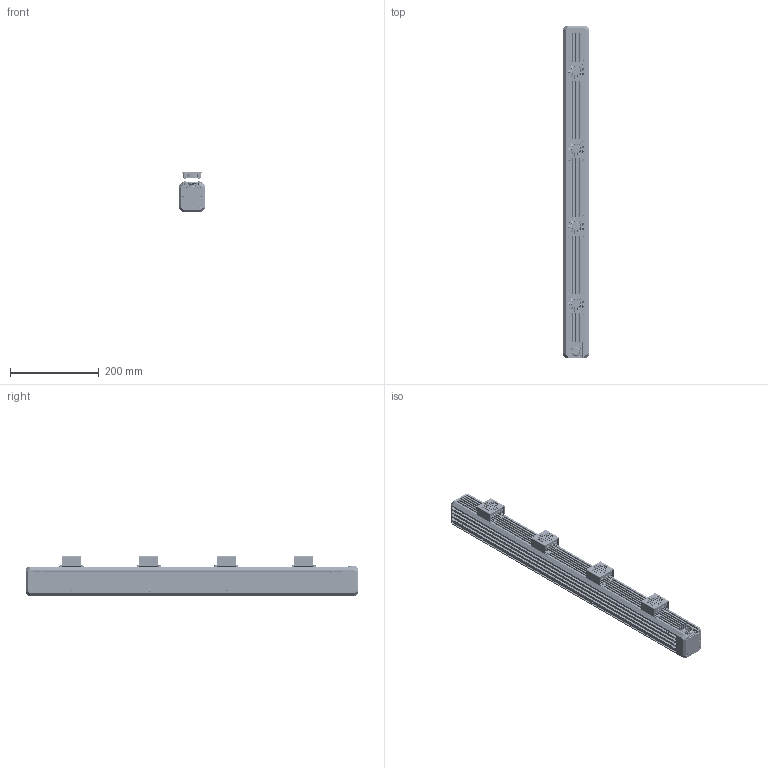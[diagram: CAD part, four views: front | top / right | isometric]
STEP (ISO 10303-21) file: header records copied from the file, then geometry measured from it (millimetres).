
FILE_DESCRIPTION((''),'2;1');
FILE_NAME('MV-LTDS-H-700-W_ASM_1_ASM','2025-06-03T15:14:23',('huguozhe'),(''),'CREO PARAMETRIC BY PTC INC, 2020044','CREO PARAMETRIC BY PTC INC, 2020044','');
FILE_SCHEMA(('AUTOMOTIVE_DESIGN { 1 0 10303 214 1 1 1 1 }'));
Products named in the file (27): DE-15-000630_1; DE-15-000629_ASM_1_ASM; DE-15-000632_1; DE-15-000631_ASM_1_ASM; SC-HSCM3X6B-GB70_1_1; DE-14-015561_1; DE-14-016112_ASM_1_ASM; DE-14-015560_1_1_1; DE-14-016113_ASM_1_1_ASM_1_ASM; DE-14-016113_ASM_ASM_1_ASM; 19M-H_2_1_1_1; 19M-8H-8P_1_1; 19M-8H_ASM_1_ASM_1_ASM; 19M-8H_ASM_ASM_1_ASM; DE-14-016113-19M-8H_ASM; DE-12-001665_1; SC-AM3X10NL-BNI-SCM435-GB70_1_1; SC-HSCM3X8-SUS316_1; DE-11-019911_1; 8002-CLS-M3-1_1; DE-11-019911_ASM_1_ASM; 101800527_01_1; 101800527_02_1; 101800527_MGA4012HB-O10_ASM_1_ASM; SC-ASFM3X14NL-BNI-SUS316L_1; NUT-M4-GB6170_1; MV-LTDS-H-700-W_ASM_1_ASM
Assembly tree (91 placements, depth 5):
  MV-LTDS-H-700-W_ASM_1_ASM
    DE-15-000629_ASM_1_ASM
      DE-15-000630_1
    DE-15-000631_ASM_1_ASM  x2
      DE-15-000632_1
    SC-HSCM3X6B-GB70_1_1  x8
    DE-14-016112_ASM_1_ASM
      DE-14-015561_1
    DE-14-016113-19M-8H_ASM
      DE-14-016113_ASM_ASM_1_ASM
        DE-14-016113_ASM_1_1_ASM_1_ASM
          DE-14-015560_1_1_1
      19M-8H_ASM_ASM_1_ASM
        19M-8H_ASM_1_ASM_1_ASM
          19M-H_2_1_1_1
          19M-8H-8P_1_1
    DE-12-001665_1
    SC-AM3X10NL-BNI-SCM435-GB70_1_1  x24
    SC-HSCM3X8-SUS316_1  x4
    DE-11-019911_ASM_1_ASM  x4
      DE-11-019911_1
      8002-CLS-M3-1_1
    101800527_MGA4012HB-O10_ASM_1_ASM  x4
      101800527_01_1
      101800527_02_1
    SC-ASFM3X14NL-BNI-SUS316L_1  x16
    NUT-M4-GB6170_1  x8
Bounding box: 58 x 750 x 90.6 mm (x, y, z)
Volume: 2312734.4 mm3; surface area: 649221.5 mm2
Topology: 96 solids, 260 shells, 5207 faces, 13918 edges, 8985 vertices
Faces by surface type: plane 2393, cylinder 1820, cone 688, torus 248, bspline 42, sphere 16
Entity records: 81207 total; most frequent: CARTESIAN_POINT 22160, DIRECTION 11013, ORIENTED_EDGE 9908, EDGE_CURVE 5096, AXIS2_PLACEMENT_3D 4194, VERTEX_POINT 3401, VECTOR 2625, LINE 2625
